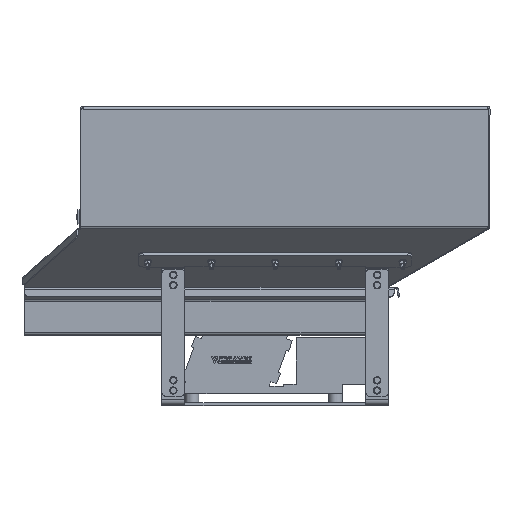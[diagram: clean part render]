
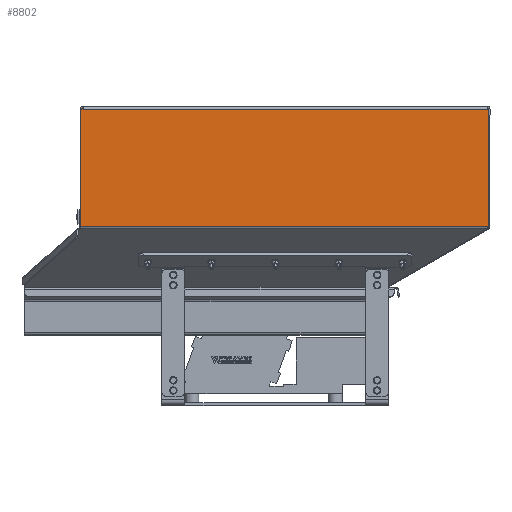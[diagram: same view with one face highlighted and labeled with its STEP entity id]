
A CAD part, top view. The second image highlights one B-rep face of the part: STEP entity #8802.
In plain terms, the highlighted planar face has unit normal (0, 0, 1) as drawn and (1, 0, 0) by its records, which use the part's own axes.
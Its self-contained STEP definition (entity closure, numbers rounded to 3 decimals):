
#101 = ORIENTED_EDGE ( 'NONE', *, *, #57015, .T. ) ;
#2111 = LINE ( 'NONE', #10482, #49952 ) ;
#2589 = DIRECTION ( 'NONE',  ( 0., 0., 1. ) ) ;
#3082 = VERTEX_POINT ( 'NONE', #55125 ) ;
#3522 = ORIENTED_EDGE ( 'NONE', *, *, #49877, .T. ) ;
#4482 = DIRECTION ( 'NONE',  ( -1., 0., 0. ) ) ;
#4559 = LINE ( 'NONE', #24169, #7381 ) ;
#5211 = LINE ( 'NONE', #57076, #35521 ) ;
#5855 = EDGE_CURVE ( 'NONE', #51465, #35384, #23438, .T. ) ;
#6045 = DIRECTION ( 'NONE',  ( 0., 0., 1. ) ) ;
#7297 = VECTOR ( 'NONE', #13344, 1000. ) ;
#7381 = VECTOR ( 'NONE', #6045, 1000. ) ;
#7947 = CARTESIAN_POINT ( 'NONE',  ( 615.814, -100.719, -1000. ) ) ;
#8802 = ADVANCED_FACE ( 'NONE', ( #53409 ), #31465, .F. ) ;
#9918 = CARTESIAN_POINT ( 'NONE',  ( 615.814, 152.139, -120. ) ) ;
#10482 = CARTESIAN_POINT ( 'NONE',  ( 615.814, -98.819, -1001.9 ) ) ;
#13344 = DIRECTION ( 'NONE',  ( 0., 0., 1. ) ) ;
#13358 = CARTESIAN_POINT ( 'NONE',  ( 615.814, 150.139, -1000. ) ) ;
#14811 = ORIENTED_EDGE ( 'NONE', *, *, #28915, .F. ) ;
#15512 = CARTESIAN_POINT ( 'NONE',  ( 615.814, 152.139, -126. ) ) ;
#23438 = LINE ( 'NONE', #25276, #43100 ) ;
#24169 = CARTESIAN_POINT ( 'NONE',  ( 615.814, 152.139, -1001.73 ) ) ;
#25276 = CARTESIAN_POINT ( 'NONE',  ( 615.814, 152.139, -1001.73 ) ) ;
#26808 = CARTESIAN_POINT ( 'NONE',  ( 615.814, -98.989, -1001.73 ) ) ;
#27003 = VERTEX_POINT ( 'NONE', #7947 ) ;
#27625 = AXIS2_PLACEMENT_3D ( 'NONE', #13358, #4482, #41015 ) ;
#28915 = EDGE_CURVE ( 'NONE', #27003, #3082, #43184, .T. ) ;
#31465 = PLANE ( 'NONE',  #27625 ) ;
#32141 = VERTEX_POINT ( 'NONE', #42978 ) ;
#33641 = LINE ( 'NONE', #54150, #35067 ) ;
#35067 = VECTOR ( 'NONE', #45126, 1000. ) ;
#35384 = VERTEX_POINT ( 'NONE', #15512 ) ;
#35521 = VECTOR ( 'NONE', #52546, 1000. ) ;
#35796 = EDGE_CURVE ( 'NONE', #32141, #35384, #56646, .T. ) ;
#36282 = VECTOR ( 'NONE', #45863, 1000. ) ;
#36799 = CARTESIAN_POINT ( 'NONE',  ( 615.814, 152.139, -1001.73 ) ) ;
#37546 = EDGE_CURVE ( 'NONE', #32141, #3082, #5211, .T. ) ;
#39861 = CARTESIAN_POINT ( 'NONE',  ( 615.814, -100.719, -1000. ) ) ;
#41015 = DIRECTION ( 'NONE',  ( 0., 0., 1. ) ) ;
#41483 = VERTEX_POINT ( 'NONE', #26808 ) ;
#42978 = CARTESIAN_POINT ( 'NONE',  ( 615.814, 152.139, -120. ) ) ;
#43100 = VECTOR ( 'NONE', #2589, 1000. ) ;
#43184 = LINE ( 'NONE', #39861, #7297 ) ;
#45126 = DIRECTION ( 'NONE',  ( 0., 1., 0. ) ) ;
#45624 = CARTESIAN_POINT ( 'NONE',  ( 615.814, 152.139, -998.73 ) ) ;
#45863 = DIRECTION ( 'NONE',  ( 0., 0., -1. ) ) ;
#49150 = EDGE_LOOP ( 'NONE', ( #101, #3522, #55131, #50987, #54387, #14811, #55578 ) ) ;
#49877 = EDGE_CURVE ( 'NONE', #56461, #51465, #4559, .T. ) ;
#49952 = VECTOR ( 'NONE', #55061, 1000. ) ;
#50987 = ORIENTED_EDGE ( 'NONE', *, *, #35796, .F. ) ;
#51465 = VERTEX_POINT ( 'NONE', #45624 ) ;
#52546 = DIRECTION ( 'NONE',  ( 0., -1., 0. ) ) ;
#53409 = FACE_OUTER_BOUND ( 'NONE', #49150, .T. ) ;
#53427 = EDGE_CURVE ( 'NONE', #27003, #41483, #2111, .T. ) ;
#54150 = CARTESIAN_POINT ( 'NONE',  ( 615.814, 150.139, -1001.73 ) ) ;
#54387 = ORIENTED_EDGE ( 'NONE', *, *, #37546, .T. ) ;
#55061 = DIRECTION ( 'NONE',  ( 0., 0.707, -0.707 ) ) ;
#55125 = CARTESIAN_POINT ( 'NONE',  ( 615.814, -100.719, -120. ) ) ;
#55131 = ORIENTED_EDGE ( 'NONE', *, *, #5855, .T. ) ;
#55578 = ORIENTED_EDGE ( 'NONE', *, *, #53427, .T. ) ;
#56461 = VERTEX_POINT ( 'NONE', #36799 ) ;
#56646 = LINE ( 'NONE', #9918, #36282 ) ;
#57015 = EDGE_CURVE ( 'NONE', #41483, #56461, #33641, .T. ) ;
#57076 = CARTESIAN_POINT ( 'NONE',  ( 615.814, 150.139, -120. ) ) ;
